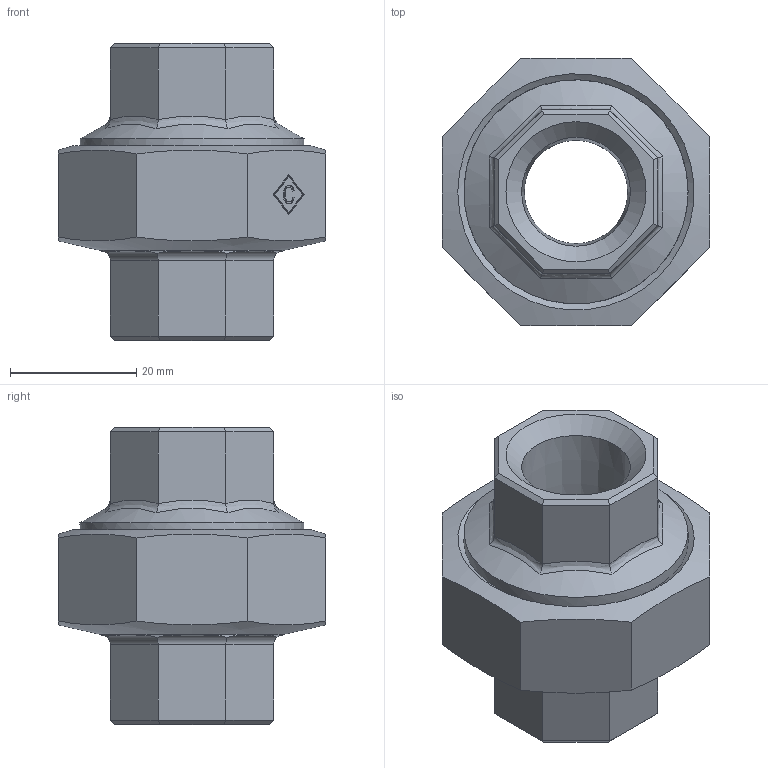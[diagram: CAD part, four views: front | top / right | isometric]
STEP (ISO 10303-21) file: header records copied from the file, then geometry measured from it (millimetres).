
FILE_DESCRIPTION((''),'2;1');
FILE_NAME('P:\Fastrack\53909_CRANE\Crane\Fig.271 Union\New 0.50 inch\271-0.50.stp','2009-09-17T13:46:58',('btaylor'),(''),'Autodesk Inventor 2008','Autodesk Inventor 2008','');
FILE_SCHEMA(('AUTOMOTIVE_DESIGN { 1 0 10303 214 1 1 1 1 }'));
Length unit declared in the file: millimetre
Products named in the file (1): 271-0.50
Bounding box: 42.42 x 42.42 x 47.09 mm (x, y, z)
Volume: 28084.4 mm3; surface area: 12661.2 mm2
Topology: 1 solids, 2 shells, 111 faces, 271 edges, 170 vertices
Faces by surface type: plane 68, bspline 20, cylinder 14, cone 9
Full cylindrical faces by diameter (mm): 22.9 x1, 29.08 x1, 29.464 x1, 32.26 x1, 35.509 x2
Entity records: 4109 total; most frequent: CARTESIAN_POINT 1780, ORIENTED_EDGE 490, DIRECTION 388, EDGE_CURVE 245, VERTEX_POINT 163, EDGE_LOOP 140, AXIS2_PLACEMENT_3D 131, VECTOR 126
